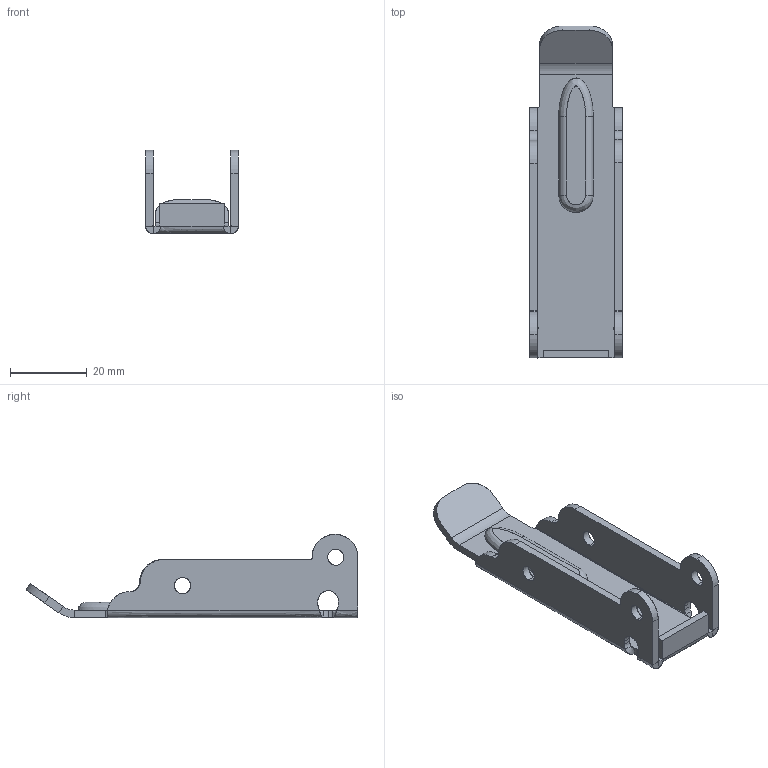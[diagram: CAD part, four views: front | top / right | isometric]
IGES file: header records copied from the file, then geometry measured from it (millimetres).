
Start section: SolidWorks IGES FILE using analytic representation for surfaces
Global section: file name: C:\Documents and Settings\lecoutey\Bureau\GP 1075\1075.010.10.IGS; native system: SolidWorks 2004 by SolidWorks Corporation; preprocessor: Version 5.3; author: lecoutey; date: 050329.153635; units: millimetre
Bounding box: 24.25 x 86.66 x 21.78 mm (x, y, z)
Surface area: 8218.4 mm2 (no closed solid volume)
Topology: 0 solids, 0 shells, 107 faces, 1375 edges, 1371 vertices
Faces by surface type: revolution 61, bspline 46
